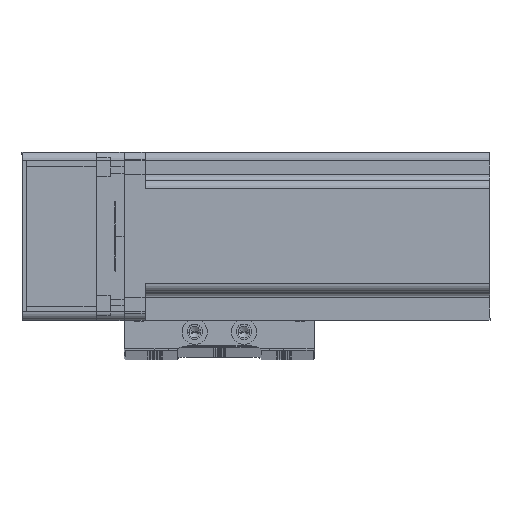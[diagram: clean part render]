
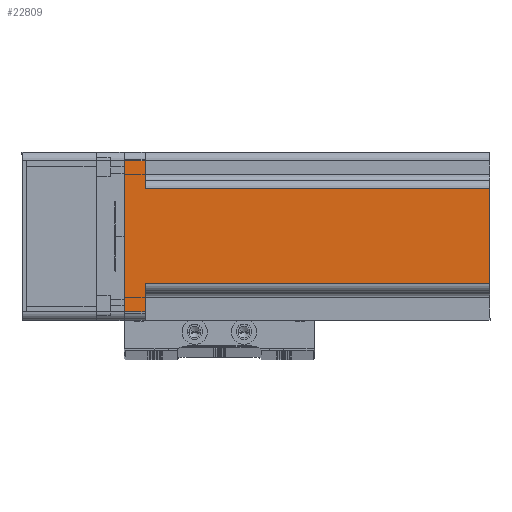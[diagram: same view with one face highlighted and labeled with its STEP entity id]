
A CAD part, top view. The second image highlights one B-rep face of the part: STEP entity #22809.
In plain terms, the highlighted planar face has unit normal (0, 0, 1) as drawn and (0, 1, 0) by its records, which use the part's own axes.
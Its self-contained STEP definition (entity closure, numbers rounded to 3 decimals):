
#1616 = DIRECTION ( 'NONE',  ( 0., 0., 1. ) ) ;
#5300 = ORIENTED_EDGE ( 'NONE', *, *, #30439, .T. ) ;
#5830 = CARTESIAN_POINT ( 'NONE',  ( 27., 30., 130.7 ) ) ;
#5838 = EDGE_CURVE ( 'NONE', #54927, #40227, #41041, .T. ) ;
#6044 = EDGE_CURVE ( 'NONE', #27853, #14686, #28419, .T. ) ;
#6284 = CARTESIAN_POINT ( 'NONE',  ( 30., 30., 130.7 ) ) ;
#6306 = EDGE_CURVE ( 'NONE', #18615, #68670, #50910, .T. ) ;
#6606 = CARTESIAN_POINT ( 'NONE',  ( -20., 30., 7.5 ) ) ;
#6753 = VERTEX_POINT ( 'NONE', #16118 ) ;
#7304 = DIRECTION ( 'NONE',  ( 0., -1., 0. ) ) ;
#7460 = ORIENTED_EDGE ( 'NONE', *, *, #34613, .T. ) ;
#7880 = LINE ( 'NONE', #6284, #48803 ) ;
#13348 = CARTESIAN_POINT ( 'NONE',  ( 20., 30., 7.5 ) ) ;
#13363 = ORIENTED_EDGE ( 'NONE', *, *, #27193, .F. ) ;
#14686 = VERTEX_POINT ( 'NONE', #61076 ) ;
#15047 = AXIS2_PLACEMENT_3D ( 'NONE', #39270, #7304, #44612 ) ;
#15134 = CARTESIAN_POINT ( 'NONE',  ( 17., 30., 130.7 ) ) ;
#15497 = VECTOR ( 'NONE', #29393, 1000. ) ;
#16118 = CARTESIAN_POINT ( 'NONE',  ( 27., 30., 7.5 ) ) ;
#17159 = LINE ( 'NONE', #13348, #15497 ) ;
#17420 = DIRECTION ( 'NONE',  ( -1., 0., 0. ) ) ;
#17594 = PLANE ( 'NONE',  #15047 ) ;
#18615 = VERTEX_POINT ( 'NONE', #29740 ) ;
#19689 = VERTEX_POINT ( 'NONE', #60156 ) ;
#22809 = ADVANCED_FACE ( 'NONE', ( #26575 ), #17594, .F. ) ;
#23084 = ORIENTED_EDGE ( 'NONE', *, *, #6306, .T. ) ;
#26224 = DIRECTION ( 'NONE',  ( 0., 0., -1. ) ) ;
#26575 = FACE_OUTER_BOUND ( 'NONE', #62904, .T. ) ;
#27193 = EDGE_CURVE ( 'NONE', #6753, #14686, #17159, .T. ) ;
#27853 = VERTEX_POINT ( 'NONE', #15134 ) ;
#28030 = ORIENTED_EDGE ( 'NONE', *, *, #37304, .T. ) ;
#28419 = LINE ( 'NONE', #31611, #42626 ) ;
#29393 = DIRECTION ( 'NONE',  ( -1., 0., 0. ) ) ;
#29740 = CARTESIAN_POINT ( 'NONE',  ( -27., 30., 7.5 ) ) ;
#30169 = VECTOR ( 'NONE', #17420, 1000. ) ;
#30439 = EDGE_CURVE ( 'NONE', #6753, #54927, #47183, .T. ) ;
#30501 = ORIENTED_EDGE ( 'NONE', *, *, #51043, .F. ) ;
#30797 = LINE ( 'NONE', #64562, #59132 ) ;
#31296 = VECTOR ( 'NONE', #37804, 1000. ) ;
#31611 = CARTESIAN_POINT ( 'NONE',  ( 17., 30., 130.7 ) ) ;
#32901 = DIRECTION ( 'NONE',  ( -1., 0., 0. ) ) ;
#33222 = DIRECTION ( 'NONE',  ( 1., 0., 0. ) ) ;
#34613 = EDGE_CURVE ( 'NONE', #68670, #19689, #30797, .T. ) ;
#36747 = VECTOR ( 'NONE', #33222, 1000. ) ;
#37304 = EDGE_CURVE ( 'NONE', #40227, #18615, #38336, .T. ) ;
#37779 = DIRECTION ( 'NONE',  ( 0., 0., 1. ) ) ;
#37804 = DIRECTION ( 'NONE',  ( 0., 0., -1. ) ) ;
#38336 = LINE ( 'NONE', #65541, #65011 ) ;
#39270 = CARTESIAN_POINT ( 'NONE',  ( 30., 30., 130.7 ) ) ;
#40227 = VERTEX_POINT ( 'NONE', #54544 ) ;
#41041 = LINE ( 'NONE', #44223, #30169 ) ;
#42626 = VECTOR ( 'NONE', #26224, 1000. ) ;
#44223 = CARTESIAN_POINT ( 'NONE',  ( 30., 30., 0. ) ) ;
#44612 = DIRECTION ( 'NONE',  ( 1., 0., 0. ) ) ;
#47183 = LINE ( 'NONE', #5830, #31296 ) ;
#48803 = VECTOR ( 'NONE', #32901, 1000. ) ;
#50910 = LINE ( 'NONE', #6606, #36747 ) ;
#51043 = EDGE_CURVE ( 'NONE', #27853, #19689, #7880, .T. ) ;
#51279 = ORIENTED_EDGE ( 'NONE', *, *, #6044, .T. ) ;
#54544 = CARTESIAN_POINT ( 'NONE',  ( -27., 30., 0. ) ) ;
#54927 = VERTEX_POINT ( 'NONE', #61891 ) ;
#56996 = CARTESIAN_POINT ( 'NONE',  ( -17., 30., 7.5 ) ) ;
#59132 = VECTOR ( 'NONE', #37779, 1000. ) ;
#60156 = CARTESIAN_POINT ( 'NONE',  ( -17., 30., 130.7 ) ) ;
#61076 = CARTESIAN_POINT ( 'NONE',  ( 17., 30., 7.5 ) ) ;
#61891 = CARTESIAN_POINT ( 'NONE',  ( 27., 30., 0. ) ) ;
#62904 = EDGE_LOOP ( 'NONE', ( #23084, #7460, #30501, #51279, #13363, #5300, #68539, #28030 ) ) ;
#64562 = CARTESIAN_POINT ( 'NONE',  ( -17., 30., 130.7 ) ) ;
#65011 = VECTOR ( 'NONE', #1616, 1000. ) ;
#65541 = CARTESIAN_POINT ( 'NONE',  ( -27., 30., 130.7 ) ) ;
#68539 = ORIENTED_EDGE ( 'NONE', *, *, #5838, .T. ) ;
#68670 = VERTEX_POINT ( 'NONE', #56996 ) ;
